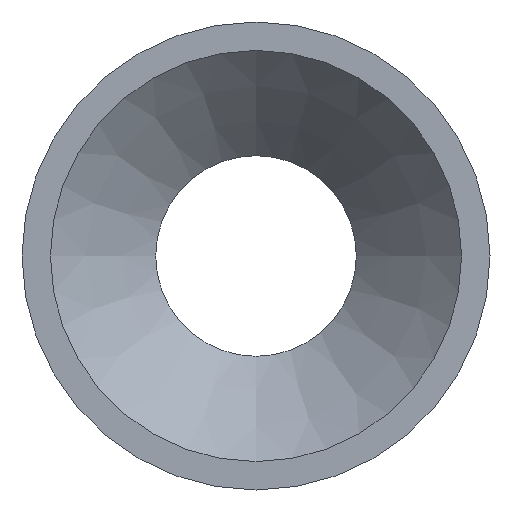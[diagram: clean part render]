
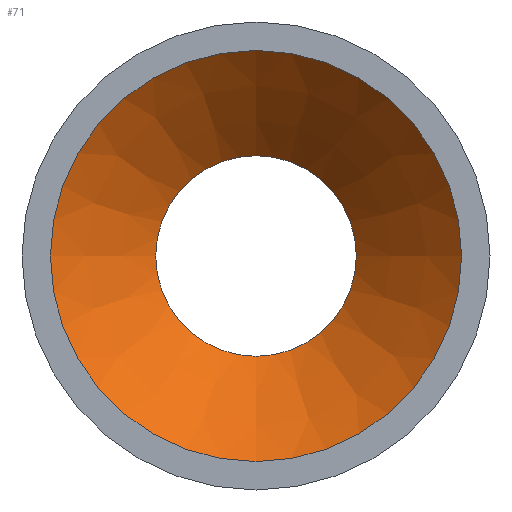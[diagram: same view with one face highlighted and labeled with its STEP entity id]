
A CAD part, left-side view. The second image highlights one B-rep face of the part: STEP entity #71.
In plain terms, the highlighted conical face has half-angle 45 degrees and reference radius 6.15 mm.
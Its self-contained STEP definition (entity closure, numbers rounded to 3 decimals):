
#22=CONICAL_SURFACE('',#91,6.15,0.785);
#25=ORIENTED_EDGE('',*,*,#35,.T.);
#26=ORIENTED_EDGE('',*,*,#33,.F.);
#33=EDGE_CURVE('',#38,#38,#43,.T.);
#35=EDGE_CURVE('',#40,#40,#45,.T.);
#38=VERTEX_POINT('',#123);
#40=VERTEX_POINT('',#128);
#43=CIRCLE('',#89,6.15);
#45=CIRCLE('',#92,3.);
#50=EDGE_LOOP('',(#25));
#51=EDGE_LOOP('',(#26));
#60=FACE_BOUND('',#50,.T.);
#61=FACE_BOUND('',#51,.T.);
#71=ADVANCED_FACE('',(#60,#61),#22,.F.);
#89=AXIS2_PLACEMENT_3D('',#122,#102,#103);
#91=AXIS2_PLACEMENT_3D('',#126,#106,#107);
#92=AXIS2_PLACEMENT_3D('',#127,#108,#109);
#102=DIRECTION('',(1.,0.,0.));
#103=DIRECTION('',(0.,0.,-1.));
#106=DIRECTION('',(-1.,0.,0.));
#107=DIRECTION('',(0.,0.,1.));
#108=DIRECTION('',(1.,0.,0.));
#109=DIRECTION('',(0.,0.,-1.));
#122=CARTESIAN_POINT('',(0.,0.,0.));
#123=CARTESIAN_POINT('',(0.,0.,-6.15));
#126=CARTESIAN_POINT('',(0.,0.,0.));
#127=CARTESIAN_POINT('',(3.15,0.,0.));
#128=CARTESIAN_POINT('',(3.15,0.,-3.));
